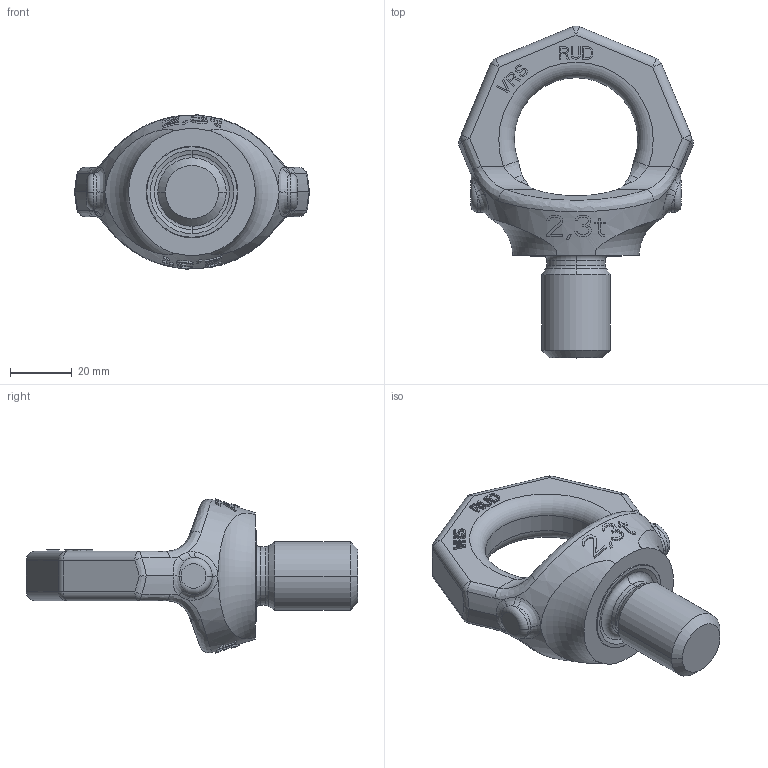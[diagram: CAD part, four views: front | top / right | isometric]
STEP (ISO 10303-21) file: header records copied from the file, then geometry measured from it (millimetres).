
FILE_DESCRIPTION((''),'2;1');
FILE_NAME('001-M35714-P-1_ASM','2017-10-10T',('Lukas.Muehlberger'),(''),'PRO/ENGINEER BY PARAMETRIC TECHNOLOGY CORPORATION, 2011490','PRO/ENGINEER BY PARAMETRIC TECHNOLOGY CORPORATION, 2011490','');
FILE_SCHEMA(('CONFIG_CONTROL_DESIGN'));
Length unit declared in the file: millimetre
Products named in the file (3): 001-M35308-P-1; 001-M35714-P-1; 001-M35714-P-1_ASM
Assembly tree (2 placements, depth 2):
  001-M35714-P-1_ASM
    001-M35308-P-1
    001-M35714-P-1
Bounding box: 75.95 x 107.44 x 49.87 mm (x, y, z)
Volume: 73685.1 mm3; surface area: 20597.6 mm2
Topology: 2 solids, 2 shells, 629 faces, 1722 edges, 1120 vertices
Faces by surface type: plane 503, bspline 58, cylinder 32, torus 14, sphere 14, cone 8
Entity records: 23590 total; most frequent: CARTESIAN_POINT 8794, ORIENTED_EDGE 3444, DIRECTION 2442, EDGE_CURVE 1722, VERTEX_POINT 1120, VECTOR 1038, LINE 1038, AXIS2_PLACEMENT_3D 702
